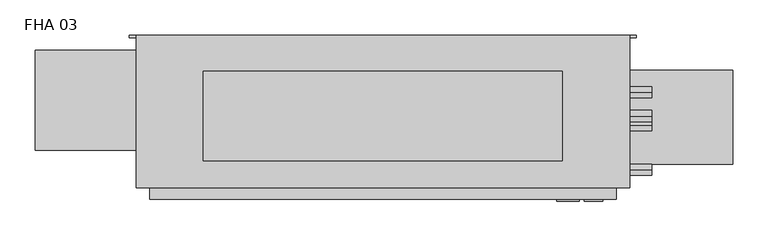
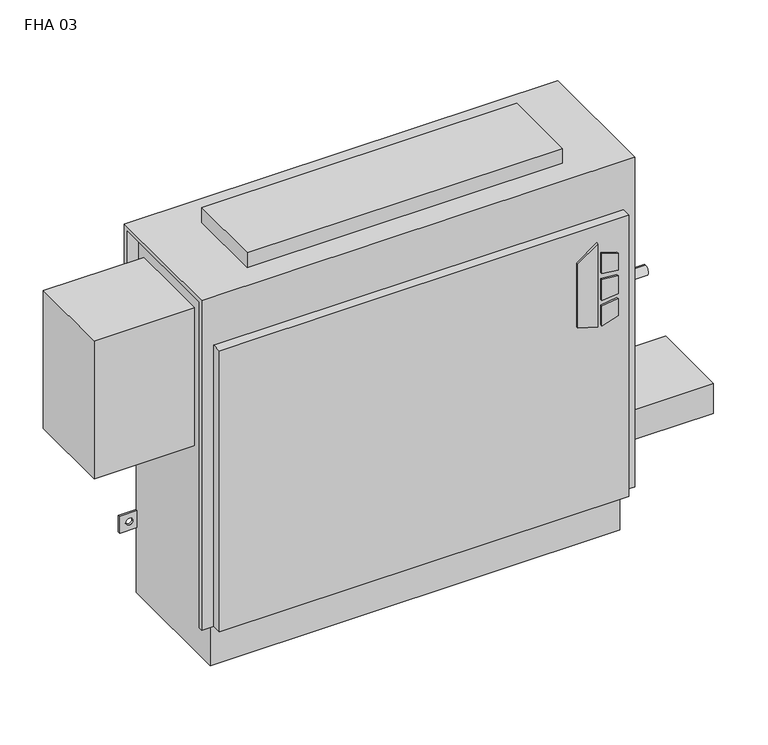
"""IFC4 building model written with IfcOpenShell, lengths in millimetres: proxy geometry, Vertical_Fan_Coil_Unit_-_FHA_-_IEC_-_4-Pipe_TS-FR_RH_2022 : FHA 03."""

from ifc_helpers import new_model, si_unit, point, frame, frame_2d, origin, place, context, project, spatial, polyline, circle_curve, trimmed, segment, composite_curve, outline, extrude, source, transform, mapped, element, save
from ifc_brep_helpers import plane_surface, revolved_surface, advanced_brep


def fha_03_051e9402(model_context):
    return source(origin(), model_context, "Body", "SolidModel", [
        extrude(outline(polyline([(391.6086829, 398.5368862), (381.6606126, 430.7102728), (523.831537, 430.7102728), (500.8095309, 398.5368862), (391.6086829, 398.5368862)])), frame((0.0, 9.525, 0.0), z_axis=(0.0, 1.0, 0.0), x_axis=(0.0, 0.0, 1.0)), (0.0, 0.0, 1.0), 3.175),
        extrude(outline(polyline([(470.6079683, 437.4686058), (467.4055757, 463.55), (496.6344168, 463.55), (504.6988318, 437.4686058), (470.6079683, 437.4686058)])), frame((0.0, 9.525, 0.0), z_axis=(0.0, 1.0, 0.0), x_axis=(0.0, 0.0, 1.0)), (0.0, 0.0, 1.0), 3.175),
        extrude(outline(polyline([(418.7444414, 463.55), (415.0789404, 437.4686058), (381.6606126, 437.4686058), (390.2948498, 463.55), (418.7444414, 463.55)])), frame((0.0, 9.525, 0.0), z_axis=(0.0, 1.0, 0.0), x_axis=(0.0, 0.0, 1.0)), (0.0, 0.0, 1.0), 3.175),
        extrude(outline(polyline([(458.0596028, 463.55), (460.3414292, 437.4686058), (424.4038806, 437.4686058), (427.1451456, 463.55), (458.0596028, 463.55)])), frame((0.0, 9.525, 0.0), z_axis=(0.0, 1.0, 0.0), x_axis=(0.0, 0.0, 1.0)), (0.0, 0.0, 1.0), 3.175),
        extrude(outline(composite_curve([segment(trimmed(circle_curve(frame_2d((546.1, 128.5875)), 9.525), [point((536.575, 128.5875))], [point((555.625, 128.5875))], False, "CARTESIAN"), True, "CONTINUOUS"), segment(trimmed(circle_curve(frame_2d((546.1, 128.5875)), 9.525), [point((555.625, 128.5875))], [point((536.575, 128.5875))], False, "CARTESIAN"), True, "CONTINUOUS")], self_intersect=False)), frame((0.0, 0.0, 101.6), z_axis=(0.0, 0.0, 1.0), x_axis=(1.0, 0.0, 0.0)), (0.0, 0.0, 1.0), 25.4),
        extrude(outline(polyline([(647.7, 195.2625), (647.7, 61.9125), (482.6, 61.9125), (482.6, 195.2625), (647.7, 195.2625)])), frame((0.0, 0.0, 127.0), z_axis=(0.0, 0.0, 1.0), x_axis=(1.0, 0.0, 0.0)), (0.0, 0.0, 1.0), 50.8),
        extrude(outline(polyline([(406.4, 193.675), (406.4, 66.675), (-101.6, 66.675), (-101.6, 193.675), (406.4, 193.675)])), frame((0.0, 0.0, 635.0), z_axis=(0.0, 0.0, 1.0), x_axis=(1.0, 0.0, 0.0)), (0.0, 0.0, 1.0), 25.4),
        extrude(outline(composite_curve([segment(trimmed(circle_curve(frame_2d((117.475, 472.44)), 7.9375), [point((117.475, 464.5025))], [point((117.475, 480.3775))], False, "CARTESIAN"), True, "CONTINUOUS"), segment(trimmed(circle_curve(frame_2d((117.475, 472.44)), 7.9375), [point((117.475, 480.3775))], [point((117.475, 464.5025))], False, "CARTESIAN"), True, "CONTINUOUS")], self_intersect=False)), frame((482.6, 0.0, 0.0), z_axis=(1.0, 0.0, 0.0), x_axis=(0.0, 1.0, 0.0)), (0.0, 0.0, 1.0), 50.8),
        extrude(outline(composite_curve([segment(trimmed(circle_curve(frame_2d((164.0586, 445.897)), 7.9375), [point((164.0586, 437.9595))], [point((164.0586, 453.8345))], False, "CARTESIAN"), True, "CONTINUOUS"), segment(trimmed(circle_curve(frame_2d((164.0586, 445.897)), 7.9375), [point((164.0586, 453.8345))], [point((164.0586, 437.9595))], False, "CARTESIAN"), True, "CONTINUOUS")], self_intersect=False)), frame((482.6, 0.0, 0.0), z_axis=(1.0, 0.0, 0.0), x_axis=(0.0, 1.0, 0.0)), (0.0, 0.0, 1.0), 50.8),
        extrude(outline(composite_curve([segment(trimmed(circle_curve(frame_2d((130.175, 554.99)), 7.9502), [point((130.175, 547.0398))], [point((130.175, 562.9402))], False, "CARTESIAN"), True, "CONTINUOUS"), segment(trimmed(circle_curve(frame_2d((130.175, 554.99)), 7.9502), [point((130.175, 562.9402))], [point((130.175, 547.0398))], False, "CARTESIAN"), True, "CONTINUOUS")], self_intersect=False)), frame((482.6, 0.0, 0.0), z_axis=(1.0, 0.0, 0.0), x_axis=(0.0, 1.0, 0.0)), (0.0, 0.0, 1.0), 50.8),
        extrude(outline(composite_curve([segment(trimmed(circle_curve(frame_2d((53.975, 416.56)), 7.9502), [point((53.975, 408.6098))], [point((53.975, 424.5102))], False, "CARTESIAN"), True, "CONTINUOUS"), segment(trimmed(circle_curve(frame_2d((53.975, 416.56)), 7.9502), [point((53.975, 424.5102))], [point((53.975, 408.6098))], False, "CARTESIAN"), True, "CONTINUOUS")], self_intersect=False)), frame((482.6, 0.0, 0.0), z_axis=(1.0, 0.0, 0.0), x_axis=(0.0, 1.0, 0.0)), (0.0, 0.0, 1.0), 50.8),
        extrude(outline(polyline([(-339.725, 223.266), (-177.8, 223.266), (-177.8, 81.534), (-339.725, 81.534), (-339.725, 223.266)])), frame((0.0, 0.0, 349.25), z_axis=(0.0, 0.0, 1.0), x_axis=(1.0, 0.0, 0.0)), (0.0, 0.0, 1.0), 234.95),
        advanced_brep(
        [(501.65, 244.475, 635.0), (-196.85, 244.475, 635.0), (-196.85, 28.575, 635.0), (501.65, 28.575, 635.0), (-177.8, 244.475, 0.0), (482.6, 244.475, 0.0), (482.6, 38.1, 0.0), (-177.8, 38.1, 0.0), (501.65, 244.475, 558.8), (482.6, 244.475, 558.8), (482.6, 244.475, 414.3375), (511.175, 244.475, 414.3375), (511.175, 244.475, 385.7625), (482.6, 244.475, 385.7625), (482.6, 244.475, 287.3375), (511.175, 244.475, 287.3375), (511.175, 244.475, 258.7625), (482.6, 244.475, 258.7625), (482.6, 244.475, 141.2875), (511.175, 244.475, 141.2875), (511.175, 244.475, 112.7125), (482.6, 244.475, 112.7125), (-177.8, 244.475, 112.7125), (-206.375, 244.475, 112.7125), (-206.375, 244.475, 141.2875), (-177.8, 244.475, 141.2875), (-177.8, 244.475, 258.7625), (-206.375, 244.475, 258.7625), (-206.375, 244.475, 287.3375), (-177.8, 244.475, 287.3375), (-177.8, 244.475, 385.7625), (-206.375, 244.475, 385.7625), (-206.375, 244.475, 414.3375), (-177.8, 244.475, 414.3375), (-177.8, 244.475, 558.8), (-196.85, 244.475, 558.8), (500.8626, 244.475, 127.0), (489.7374, 244.475, 127.0), (-184.9374, 244.475, 127.0), (-196.0626, 244.475, 127.0), (500.8626, 244.475, 273.05), (489.7374, 244.475, 273.05), (-184.9374, 244.475, 273.05), (-196.0626, 244.475, 273.05), (500.8626, 244.475, 400.05), (489.7374, 244.475, 400.05), (-184.9374, 244.475, 400.05), (-196.0626, 244.475, 400.05), (-196.85, 238.125, 558.8), (-196.85, 238.125, 628.65), (-196.85, 34.925, 628.65), (-196.85, 34.925, 73.025), (-196.85, 28.575, 73.025), (482.6, 12.7, 552.45), (-177.8, 12.7, 552.45), (-177.8, 12.7, 73.025), (482.6, 12.7, 73.025), (501.65, 28.575, 73.025), (501.65, 34.925, 73.025), (501.65, 34.925, 628.65), (501.65, 238.125, 628.65), (501.65, 238.125, 558.8), (-177.8, 28.575, 73.025), (-177.8, 28.575, 552.45), (482.6, 28.575, 552.45), (482.6, 28.575, 73.025), (-177.8, 34.925, 73.025), (-177.8, 38.1, 73.025), (482.6, 38.1, 73.025), (482.6, 34.925, 73.025), (482.6, 241.3, 112.7125), (482.6, 241.3, 141.2875), (482.6, 241.3, 258.7625), (482.6, 241.3, 287.3375), (482.6, 241.3, 385.7625), (482.6, 241.3, 414.3375), (482.6, 238.125, 558.8), (482.6, 238.125, 628.65), (482.6, 34.925, 628.65), (-177.8, 34.925, 628.65), (-177.8, 238.125, 628.65), (-177.8, 238.125, 558.8), (-177.8, 241.3, 414.3375), (-177.8, 241.3, 385.7625), (-177.8, 241.3, 287.3375), (-177.8, 241.3, 258.7625), (-177.8, 241.3, 141.2875), (-177.8, 241.3, 112.7125), (511.175, 241.3, 112.7125), (511.175, 241.3, 141.2875), (489.7374, 241.3, 127.0), (500.8626, 241.3, 127.0), (511.175, 241.3, 258.7625), (511.175, 241.3, 287.3375), (489.7374, 241.3, 273.05), (500.8626, 241.3, 273.05), (511.175, 241.3, 385.7625), (511.175, 241.3, 414.3375), (489.7374, 241.3, 400.05), (500.8626, 241.3, 400.05), (-206.375, 241.3, 141.2875), (-206.375, 241.3, 112.7125), (-196.0626, 241.3, 127.0), (-184.9374, 241.3, 127.0), (-206.375, 241.3, 287.3375), (-206.375, 241.3, 258.7625), (-196.0626, 241.3, 273.05), (-184.9374, 241.3, 273.05), (-206.375, 241.3, 414.3375), (-206.375, 241.3, 385.7625), (-196.0626, 241.3, 400.05), (-184.9374, 241.3, 400.05)],
        [
            (0, 1),
            (1, 2),
            (2, 3),
            (3, 0),
            (4, 5),
            (5, 6),
            (6, 7),
            (7, 4),
            (0, 8),
            (8, 9),
            (9, 10),
            (10, 11),
            (11, 12),
            (12, 13),
            (13, 14),
            (14, 15),
            (15, 16),
            (16, 17),
            (17, 18),
            (18, 19),
            (19, 20),
            (20, 21),
            (21, 5),
            (4, 22),
            (22, 23),
            (23, 24),
            (24, 25),
            (25, 26),
            (26, 27),
            (27, 28),
            (28, 29),
            (29, 30),
            (30, 31),
            (31, 32),
            (32, 33),
            (33, 34),
            (34, 35),
            (35, 1),
            (36, 37, circle_curve(frame((495.3, 244.475, 127.0), z_axis=(0.0, -1.0, 0.0), x_axis=(-1.0, 0.0, 0.0)), 5.5626)),
            (37, 36, circle_curve(frame((495.3, 244.475, 127.0), z_axis=(0.0, -1.0, 0.0), x_axis=(-1.0, 0.0, 0.0)), 5.5626)),
            (38, 39, circle_curve(frame((-190.5, 244.475, 127.0), z_axis=(0.0, -1.0, 0.0), x_axis=(-1.0, 0.0, 0.0)), 5.5626)),
            (39, 38, circle_curve(frame((-190.5, 244.475, 127.0), z_axis=(0.0, -1.0, 0.0), x_axis=(-1.0, 0.0, 0.0)), 5.5626)),
            (40, 41, circle_curve(frame((495.3, 244.475, 273.05), z_axis=(0.0, -1.0, 0.0), x_axis=(-1.0, 0.0, 0.0)), 5.5626)),
            (41, 40, circle_curve(frame((495.3, 244.475, 273.05), z_axis=(0.0, -1.0, 0.0), x_axis=(-1.0, 0.0, 0.0)), 5.5626)),
            (42, 43, circle_curve(frame((-190.5, 244.475, 273.05), z_axis=(0.0, -1.0, 0.0), x_axis=(-1.0, 0.0, 0.0)), 5.5626)),
            (43, 42, circle_curve(frame((-190.5, 244.475, 273.05), z_axis=(0.0, -1.0, 0.0), x_axis=(-1.0, 0.0, 0.0)), 5.5626)),
            (44, 45, circle_curve(frame((495.3, 244.475, 400.05), z_axis=(0.0, -1.0, 0.0), x_axis=(-1.0, 0.0, 0.0)), 5.5626)),
            (45, 44, circle_curve(frame((495.3, 244.475, 400.05), z_axis=(0.0, -1.0, 0.0), x_axis=(-1.0, 0.0, 0.0)), 5.5626)),
            (46, 47, circle_curve(frame((-190.5, 244.475, 400.05), z_axis=(0.0, -1.0, 0.0), x_axis=(-1.0, 0.0, 0.0)), 5.5626)),
            (47, 46, circle_curve(frame((-190.5, 244.475, 400.05), z_axis=(0.0, -1.0, 0.0), x_axis=(-1.0, 0.0, 0.0)), 5.5626)),
            (35, 48),
            (48, 49),
            (49, 50),
            (50, 51),
            (51, 52),
            (52, 2),
            (53, 54),
            (54, 55),
            (55, 56),
            (56, 53),
            (3, 57),
            (57, 58),
            (58, 59),
            (59, 60),
            (60, 61),
            (61, 8),
            (52, 62),
            (62, 63),
            (63, 64),
            (64, 65),
            (65, 57),
            (53, 64),
            (63, 54),
            (55, 62),
            (51, 66),
            (66, 67),
            (67, 68),
            (68, 69),
            (69, 58),
            (65, 56),
            (6, 68),
            (67, 7),
            (21, 70),
            (70, 71),
            (71, 18),
            (17, 72),
            (72, 73),
            (73, 14),
            (13, 74),
            (74, 75),
            (75, 10),
            (9, 76),
            (76, 77),
            (77, 78),
            (78, 69),
            (66, 79),
            (79, 80),
            (80, 81),
            (81, 34),
            (33, 82),
            (82, 83),
            (83, 30),
            (29, 84),
            (84, 85),
            (85, 26),
            (25, 86),
            (86, 87),
            (87, 22),
            (76, 61),
            (60, 77),
            (78, 59),
            (50, 79),
            (81, 48),
            (80, 49),
            (70, 88),
            (88, 89),
            (89, 71),
            (90, 91, circle_curve(frame((495.3, 241.3, 127.0), z_axis=(0.0, 1.0, 0.0), x_axis=(-1.0, 0.0, 0.0)), 5.5626)),
            (91, 90, circle_curve(frame((495.3, 241.3, 127.0), z_axis=(0.0, 1.0, 0.0), x_axis=(-1.0, 0.0, 0.0)), 5.5626)),
            (92, 93),
            (93, 73),
            (72, 92),
            (94, 95, circle_curve(frame((495.3, 241.3, 273.05), z_axis=(0.0, 1.0, 0.0), x_axis=(-1.0, 0.0, 0.0)), 5.5626)),
            (95, 94, circle_curve(frame((495.3, 241.3, 273.05), z_axis=(0.0, 1.0, 0.0), x_axis=(-1.0, 0.0, 0.0)), 5.5626)),
            (96, 97),
            (97, 75),
            (74, 96),
            (98, 99, circle_curve(frame((495.3, 241.3, 400.05), z_axis=(0.0, 1.0, 0.0), x_axis=(-1.0, 0.0, 0.0)), 5.5626)),
            (99, 98, circle_curve(frame((495.3, 241.3, 400.05), z_axis=(0.0, 1.0, 0.0), x_axis=(-1.0, 0.0, 0.0)), 5.5626)),
            (100, 101),
            (101, 87),
            (86, 100),
            (102, 103, circle_curve(frame((-190.5, 241.3, 127.0), z_axis=(0.0, 1.0, 0.0), x_axis=(-1.0, 0.0, 0.0)), 5.5626)),
            (103, 102, circle_curve(frame((-190.5, 241.3, 127.0), z_axis=(0.0, 1.0, 0.0), x_axis=(-1.0, 0.0, 0.0)), 5.5626)),
            (84, 104),
            (104, 105),
            (105, 85),
            (106, 107, circle_curve(frame((-190.5, 241.3, 273.05), z_axis=(0.0, 1.0, 0.0), x_axis=(-1.0, 0.0, 0.0)), 5.5626)),
            (107, 106, circle_curve(frame((-190.5, 241.3, 273.05), z_axis=(0.0, 1.0, 0.0), x_axis=(-1.0, 0.0, 0.0)), 5.5626)),
            (108, 109),
            (109, 83),
            (82, 108),
            (110, 111, circle_curve(frame((-190.5, 241.3, 400.05), z_axis=(0.0, 1.0, 0.0), x_axis=(-1.0, 0.0, 0.0)), 5.5626)),
            (111, 110, circle_curve(frame((-190.5, 241.3, 400.05), z_axis=(0.0, 1.0, 0.0), x_axis=(-1.0, 0.0, 0.0)), 5.5626)),
            (89, 19),
            (88, 20),
            (16, 92),
            (93, 15),
            (12, 96),
            (97, 11),
            (24, 100),
            (101, 23),
            (105, 27),
            (104, 28),
            (32, 108),
            (109, 31),
            (90, 37),
            (36, 91),
            (102, 39),
            (38, 103),
            (94, 41),
            (40, 95),
            (106, 43),
            (42, 107),
            (98, 45),
            (44, 99),
            (110, 47),
            (46, 111),
        ],
        [
            plane_surface(frame((-196.85, 244.475, 635.0), z_axis=(0.0, 0.0, 1.0), x_axis=(-1.0, 0.0, 0.0))),
            plane_surface(frame((-196.85, 244.475, 0.0), z_axis=(0.0, 0.0, -1.0), x_axis=(1.0, 0.0, 0.0))),
            plane_surface(frame((501.65, 244.475, 635.0), z_axis=(0.0, 1.0, 0.0), x_axis=(0.0, 0.0, -1.0))),
            plane_surface(frame((-196.85, 244.475, 635.0), z_axis=(-1.0, 0.0, 0.0), x_axis=(0.0, 0.0, -1.0))),
            plane_surface(frame((-196.85, 12.7, 635.0), z_axis=(0.0, -1.0, 0.0), x_axis=(0.0, 0.0, -1.0))),
            plane_surface(frame((501.65, 12.7, 635.0), z_axis=(1.0, 0.0, 0.0), x_axis=(0.0, 0.0, -1.0))),
            plane_surface(frame((-247.65, 28.575, 635.0), z_axis=(0.0, -1.0, 0.0), x_axis=(1.0, 0.0, 0.0))),
            plane_surface(frame((-247.65, 28.575, 552.45), z_axis=(0.0, 0.0, 1.0), x_axis=(1.0, 0.0, 0.0))),
            plane_surface(frame((-196.85, 12.7, 73.025), z_axis=(0.0, 0.0, -1.0), x_axis=(1.0, 0.0, 0.0))),
            plane_surface(frame((-196.85, 38.1, 73.025), z_axis=(0.0, -1.0, 0.0), x_axis=(1.0, 0.0, 0.0))),
            plane_surface(frame((482.6, 28.575, 73.025), z_axis=(1.0, 0.0, 0.0), x_axis=(0.0, -1.0, 0.0))),
            plane_surface(frame((-177.8, 28.575, 552.45), z_axis=(-1.0, 0.0, 0.0), x_axis=(0.0, -1.0, 0.0))),
            plane_surface(frame((482.6, 244.475, 0.0), z_axis=(1.0, 0.0, 0.0), x_axis=(0.0, -1.0, 0.0))),
            plane_surface(frame((-177.8, 244.475, 73.025), z_axis=(-1.0, 0.0, 0.0), x_axis=(0.0, -1.0, 0.0))),
            plane_surface(frame((482.6, 238.125, 628.65), z_axis=(0.0, -1.0, 0.0), x_axis=(1.0, 0.0, 0.0))),
            plane_surface(frame((482.6, 238.125, 558.8), z_axis=(0.0, 0.0, -1.0), x_axis=(1.0, 0.0, 0.0))),
            plane_surface(frame((482.6, 34.925, 73.025), z_axis=(0.0, 1.0, 0.0), x_axis=(1.0, 0.0, 0.0))),
            plane_surface(frame((482.6, 34.925, 628.65), z_axis=(0.0, 0.0, -1.0), x_axis=(1.0, 0.0, 0.0))),
            plane_surface(frame((-177.8, 34.925, 628.65), z_axis=(0.0, 1.0, 0.0), x_axis=(-1.0, 0.0, 0.0))),
            plane_surface(frame((-177.8, 244.475, 558.8), z_axis=(0.0, 0.0, -1.0), x_axis=(-1.0, 0.0, 0.0))),
            plane_surface(frame((-177.8, 238.125, 558.8), z_axis=(0.0, -1.0, 0.0), x_axis=(-1.0, 0.0, 0.0))),
            plane_surface(frame((-177.8, 238.125, 628.65), z_axis=(0.0, 0.0, -1.0), x_axis=(-1.0, 0.0, 0.0))),
            plane_surface(frame((511.175, 241.3, 141.2875), z_axis=(0.0, -1.0, 0.0), x_axis=(-1.0, 0.0, 0.0))),
            plane_surface(frame((482.6, 244.475, 141.2875), z_axis=(0.0, 0.0, 1.0), x_axis=(0.0, -1.0, 0.0))),
            plane_surface(frame((511.175, 244.475, 141.2875), z_axis=(1.0, 0.0, 0.0), x_axis=(0.0, -1.0, 0.0))),
            plane_surface(frame((511.175, 244.475, 112.7125), z_axis=(0.0, 0.0, -1.0), x_axis=(0.0, -1.0, 0.0))),
            plane_surface(frame((511.175, 244.475, 258.7625), z_axis=(0.0, 0.0, -1.0), x_axis=(0.0, -1.0, 0.0))),
            plane_surface(frame((482.6, 244.475, 287.3375), z_axis=(0.0, 0.0, 1.0), x_axis=(0.0, -1.0, 0.0))),
            plane_surface(frame((511.175, 244.475, 287.3375), z_axis=(1.0, 0.0, 0.0), x_axis=(0.0, -1.0, 0.0))),
            plane_surface(frame((511.175, 244.475, 385.7625), z_axis=(0.0, 0.0, -1.0), x_axis=(0.0, -1.0, 0.0))),
            plane_surface(frame((482.6, 244.475, 414.3375), z_axis=(0.0, 0.0, 1.0), x_axis=(0.0, -1.0, 0.0))),
            plane_surface(frame((511.175, 244.475, 414.3375), z_axis=(1.0, 0.0, 0.0), x_axis=(0.0, -1.0, 0.0))),
            plane_surface(frame((-206.375, 244.475, 141.2875), z_axis=(0.0, 0.0, 1.0), x_axis=(0.0, -1.0, 0.0))),
            plane_surface(frame((-177.8, 244.475, 112.7125), z_axis=(0.0, 0.0, -1.0), x_axis=(0.0, -1.0, 0.0))),
            plane_surface(frame((-206.375, 244.475, 112.7125), z_axis=(-1.0, 0.0, 0.0), x_axis=(0.0, -1.0, 0.0))),
            plane_surface(frame((-177.8, 244.475, 258.7625), z_axis=(0.0, 0.0, -1.0), x_axis=(0.0, -1.0, 0.0))),
            plane_surface(frame((-206.375, 244.475, 258.7625), z_axis=(-1.0, 0.0, 0.0), x_axis=(0.0, -1.0, 0.0))),
            plane_surface(frame((-206.375, 244.475, 287.3375), z_axis=(0.0, 0.0, 1.0), x_axis=(0.0, -1.0, 0.0))),
            plane_surface(frame((-206.375, 244.475, 414.3375), z_axis=(0.0, 0.0, 1.0), x_axis=(0.0, -1.0, 0.0))),
            plane_surface(frame((-177.8, 244.475, 385.7625), z_axis=(0.0, 0.0, -1.0), x_axis=(0.0, -1.0, 0.0))),
            plane_surface(frame((-206.375, 244.475, 385.7625), z_axis=(-1.0, 0.0, 0.0), x_axis=(0.0, -1.0, 0.0))),
            revolved_surface(polyline([(489.73740000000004, 241.3, 127.0), (489.73740000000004, 244.475, 127.0)]), (495.3, 244.475, 127.0), (0.0, -1.0, 0.0)),
            revolved_surface(polyline([(-196.0626, 241.3, 127.0), (-196.0626, 244.475, 127.0)]), (-190.5, 244.475, 127.0), (0.0, -1.0, 0.0)),
            revolved_surface(polyline([(489.73740000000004, 241.3, 273.05), (489.73740000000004, 244.475, 273.05)]), (495.3, 244.475, 273.05), (0.0, -1.0, 0.0)),
            revolved_surface(polyline([(-196.0626, 241.3, 273.05), (-196.0626, 244.475, 273.05)]), (-190.5, 244.475, 273.05), (0.0, -1.0, 0.0)),
            revolved_surface(polyline([(489.73740000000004, 241.3, 400.05), (489.73740000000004, 244.475, 400.05)]), (495.3, 244.475, 400.05), (0.0, -1.0, 0.0)),
            revolved_surface(polyline([(-196.0626, 241.3, 400.05), (-196.0626, 244.475, 400.05)]), (-190.5, 244.475, 400.05), (0.0, -1.0, 0.0)),
        ],
        [
            (0, [[1, 2, 3, 4]]),
            (1, [[5, 6, 7, 8]]),
            (2, [[-1, 9, 10, 11, 12, 13, 14, 15, 16, 17, 18, 19, 20, 21, 22, 23, -5, 24, 25, 26, 27, 28, 29, 30, 31, 32, 33, 34, 35, 36, 37, 38], [39, 40], [41, 42], [43, 44], [45, 46], [47, 48], [49, 50]]),
            (3, [[-2, -38, 51, 52, 53, 54, 55, 56]]),
            (4, [[57, 58, 59, 60]]),
            (5, [[-4, 61, 62, 63, 64, 65, 66, -9]]),
            (6, [[-3, -56, 67, 68, 69, 70, 71, -61]]),
            (7, [[-57, 72, -69, 73]]),
            (8, [[-59, 74, -67, -55, 75, 76, 77, 78, 79, -62, -71, 80]]),
            (9, [[-7, 81, -77, 82]]),
            (10, [[-70, -72, -60, -80]]),
            (11, [[-68, -74, -58, -73]]),
            (12, [[-6, -23, 83, 84, 85, -19, 86, 87, 88, -15, 89, 90, 91, -11, 92, 93, 94, 95, -78, -81]]),
            (13, [[-8, -82, -76, 96, 97, 98, 99, -36, 100, 101, 102, -32, 103, 104, 105, -28, 106, 107, 108, -24]]),
            (14, [[-93, 109, -65, 110]]),
            (15, [[-92, -10, -66, -109]]),
            (16, [[-95, 111, -63, -79]]),
            (17, [[-94, -110, -64, -111]]),
            (18, [[-96, -75, -54, 112]]),
            (19, [[-99, 113, -51, -37]]),
            (20, [[-98, 114, -52, -113]]),
            (21, [[-97, -112, -53, -114]]),
            (22, [[115, 116, 117, -84], [118, 119]]),
            (22, [[120, 121, -87, 122], [123, 124]]),
            (22, [[125, 126, -90, 127], [128, 129]]),
            (22, [[130, 131, -107, 132], [133, 134]]),
            (22, [[135, 136, 137, -104], [138, 139]]),
            (22, [[140, 141, -101, 142], [143, 144]]),
            (23, [[-117, 145, -20, -85]]),
            (24, [[-116, 146, -21, -145]]),
            (25, [[-115, -83, -22, -146]]),
            (26, [[-122, -86, -18, 147]]),
            (27, [[-121, 148, -16, -88]]),
            (28, [[-120, -147, -17, -148]]),
            (29, [[-127, -89, -14, 149]]),
            (30, [[-126, 150, -12, -91]]),
            (31, [[-125, -149, -13, -150]]),
            (32, [[-132, -106, -27, 151]]),
            (33, [[-131, 152, -25, -108]]),
            (34, [[-130, -151, -26, -152]]),
            (35, [[-137, 153, -29, -105]]),
            (36, [[-136, 154, -30, -153]]),
            (37, [[-135, -103, -31, -154]]),
            (38, [[-142, -100, -35, 155]]),
            (39, [[-141, 156, -33, -102]]),
            (40, [[-140, -155, -34, -156]]),
            (41, [[157, -39, 158, -118]]),
            (41, [[-157, -119, -158, -40]]),
            (42, [[159, -41, 160, -133]]),
            (42, [[-159, -134, -160, -42]]),
            (43, [[161, -43, 162, -123]]),
            (43, [[-161, -124, -162, -44]]),
            (44, [[163, -45, 164, -138]]),
            (44, [[-163, -139, -164, -46]]),
            (45, [[165, -47, 166, -128]]),
            (45, [[-165, -129, -166, -48]]),
            (46, [[167, -49, 168, -143]]),
            (46, [[-167, -144, -168, -50]]),
        ],
    ),
    ])


if __name__ == "__main__":
    model = new_model("IFC4")
    model_context = context("Model", 3, world=origin())
    ifc_project = project(units=[si_unit("LENGTHUNIT", "METRE", prefix="MILLI")], contexts=[model_context])
    site = spatial("IfcSite", under=ifc_project)
    building = spatial("IfcBuilding", under=site)
    placement = place(None, origin())
    fha_03_shape = fha_03_051e9402(model_context)
    element("IfcBuildingElementProxy", 1, Name="Vertical_Fan_Coil_Unit_-_FHA_-_IEC_-_4-Pipe_TS-FR_RH_2022 : FHA 03", ObjectType="Vertical_Fan_Coil_Unit_-_FHA_-_IEC_-_4-Pipe_TS-FR_RH_2022 : FHA 03", at=placement, inside=building, context=model_context, shape_type="MappedRepresentation", body=[
        mapped(fha_03_shape, transform((0.0, 0.0, 0.0), x_axis=(1.0, 0.0, 0.0), y_axis=(0.0, 1.0, 0.0), z_axis=(0.0, 0.0, 1.0))),
    ])
    save(model, "model.ifc")
